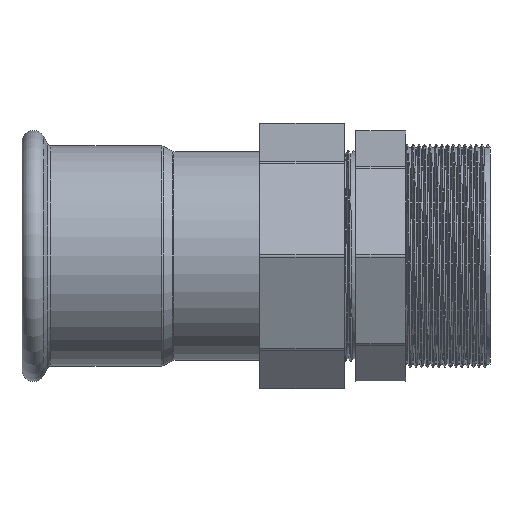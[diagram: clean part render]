
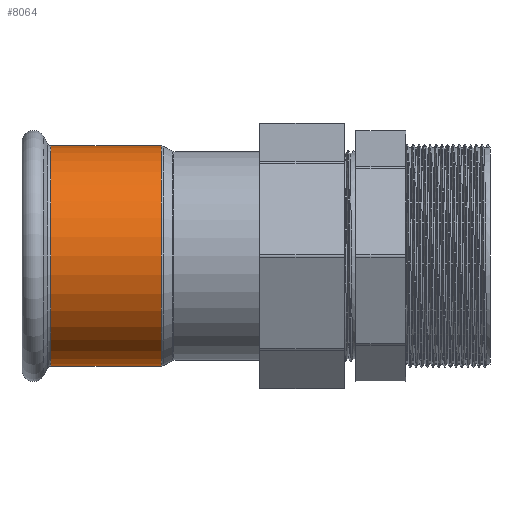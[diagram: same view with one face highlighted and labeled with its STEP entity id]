
A CAD part, front view. The second image highlights one B-rep face of the part: STEP entity #8064.
In plain terms, the highlighted cylindrical face has radius 28.7 mm (diameter 57.4 mm), a partial arc.
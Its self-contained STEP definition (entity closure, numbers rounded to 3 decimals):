
#78 = CARTESIAN_POINT ( 'NONE',  ( -45.986, 0., 28.7 ) ) ;
#88 = CARTESIAN_POINT ( 'NONE',  ( -17.196, 0., 28.7 ) ) ;
#328 = CYLINDRICAL_SURFACE ( 'NONE', #3155, 28.7 ) ;
#1332 = DIRECTION ( 'NONE',  ( 0., 0., 1. ) ) ;
#1639 = DIRECTION ( 'NONE',  ( -1., 0., 0. ) ) ;
#1695 = ORIENTED_EDGE ( 'NONE', *, *, #5604, .T. ) ;
#2068 = FACE_OUTER_BOUND ( 'NONE', #3438, .T. ) ;
#2584 = ORIENTED_EDGE ( 'NONE', *, *, #8280, .T. ) ;
#3155 = AXIS2_PLACEMENT_3D ( 'NONE', #9647, #11417, #1332 ) ;
#3389 = AXIS2_PLACEMENT_3D ( 'NONE', #5335, #6938, #8839 ) ;
#3438 = EDGE_LOOP ( 'NONE', ( #6498, #2584, #1695, #10550 ) ) ;
#3913 = DIRECTION ( 'NONE',  ( 1., 0., 0. ) ) ;
#4378 = LINE ( 'NONE', #10006, #8931 ) ;
#4456 = VECTOR ( 'NONE', #8284, 1000. ) ;
#4820 = CARTESIAN_POINT ( 'NONE',  ( -45.986, 0., 0. ) ) ;
#5335 = CARTESIAN_POINT ( 'NONE',  ( -17.196, 0., 0. ) ) ;
#5517 = CARTESIAN_POINT ( 'NONE',  ( 0., 0., 28.7 ) ) ;
#5529 = VERTEX_POINT ( 'NONE', #7994 ) ;
#5604 = EDGE_CURVE ( 'NONE', #11403, #6960, #10876, .T. ) ;
#5651 = DIRECTION ( 'NONE',  ( 0., 0., 1. ) ) ;
#5743 = EDGE_CURVE ( 'NONE', #10611, #5529, #4378, .T. ) ;
#6412 = EDGE_CURVE ( 'NONE', #6960, #5529, #9000, .T. ) ;
#6498 = ORIENTED_EDGE ( 'NONE', *, *, #5743, .F. ) ;
#6938 = DIRECTION ( 'NONE',  ( -1., 0., 0. ) ) ;
#6960 = VERTEX_POINT ( 'NONE', #78 ) ;
#7994 = CARTESIAN_POINT ( 'NONE',  ( -45.986, 0., -28.7 ) ) ;
#8064 = ADVANCED_FACE ( 'NONE', ( #2068 ), #328, .T. ) ;
#8280 = EDGE_CURVE ( 'NONE', #10611, #11403, #10180, .T. ) ;
#8284 = DIRECTION ( 'NONE',  ( -1., 0., 0. ) ) ;
#8839 = DIRECTION ( 'NONE',  ( 0., 0., -1. ) ) ;
#8931 = VECTOR ( 'NONE', #1639, 1000. ) ;
#9000 = CIRCLE ( 'NONE', #11543, 28.7 ) ;
#9105 = CARTESIAN_POINT ( 'NONE',  ( -17.196, 0., -28.7 ) ) ;
#9647 = CARTESIAN_POINT ( 'NONE',  ( 0., 0., 0. ) ) ;
#10006 = CARTESIAN_POINT ( 'NONE',  ( 0., 0., -28.7 ) ) ;
#10180 = CIRCLE ( 'NONE', #3389, 28.7 ) ;
#10550 = ORIENTED_EDGE ( 'NONE', *, *, #6412, .T. ) ;
#10611 = VERTEX_POINT ( 'NONE', #9105 ) ;
#10876 = LINE ( 'NONE', #5517, #4456 ) ;
#11403 = VERTEX_POINT ( 'NONE', #88 ) ;
#11417 = DIRECTION ( 'NONE',  ( -1., 0., 0. ) ) ;
#11543 = AXIS2_PLACEMENT_3D ( 'NONE', #4820, #3913, #5651 ) ;
